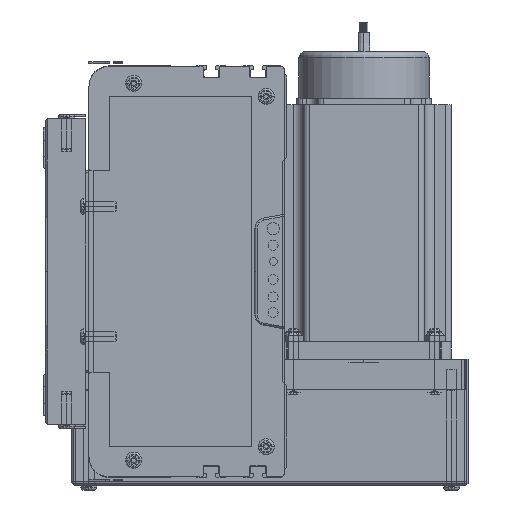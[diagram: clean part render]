
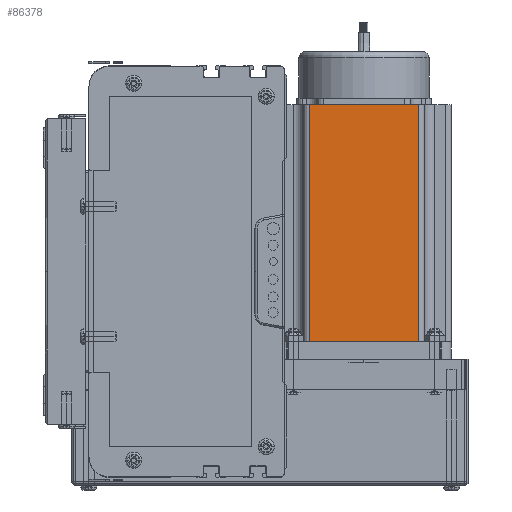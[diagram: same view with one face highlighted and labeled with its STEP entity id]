
A CAD part, left-side view. The second image highlights one B-rep face of the part: STEP entity #86378.
In plain terms, the highlighted planar face has unit normal (-1, 0, 0) as drawn and (0, -1, 0) by its records, which use the part's own axes.
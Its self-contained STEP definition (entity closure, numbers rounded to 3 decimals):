
#575 = CARTESIAN_POINT ( 'NONE',  ( 69.74, 0., 0. ) ) ;
#1881 = CARTESIAN_POINT ( 'NONE',  ( 16.16, 0., 116.5 ) ) ;
#1921 = LINE ( 'NONE', #1985, #1984 ) ;
#1983 = DIRECTION ( 'NONE',  ( 1., 0., 0. ) ) ;
#1984 = VECTOR ( 'NONE', #1983, 1000. ) ;
#1985 = CARTESIAN_POINT ( 'NONE',  ( 0., 0., 0. ) ) ;
#1996 = CARTESIAN_POINT ( 'NONE',  ( 69.74, 0., 116.5 ) ) ;
#86221 = EDGE_CURVE ( 'NONE', #86822, #86827, #162662, .T. ) ;
#86222 = EDGE_CURVE ( 'NONE', #86452, #86827, #162849, .T. ) ;
#86223 = EDGE_LOOP ( 'NONE', ( #86944, #86946, #86457, #86224 ) ) ;
#86224 = ORIENTED_EDGE ( 'NONE', *, *, #86231, .T. ) ;
#86231 = EDGE_CURVE ( 'NONE', #86822, #86371, #162813, .T. ) ;
#86371 = VERTEX_POINT ( 'NONE', #164216 ) ;
#86378 = ADVANCED_FACE ( 'NONE', ( #164289 ), #164308, .F. ) ;
#86452 = VERTEX_POINT ( 'NONE', #575 ) ;
#86457 = ORIENTED_EDGE ( 'NONE', *, *, #86221, .F. ) ;
#86822 = VERTEX_POINT ( 'NONE', #1881 ) ;
#86827 = VERTEX_POINT ( 'NONE', #1996 ) ;
#86829 = EDGE_CURVE ( 'NONE', #86371, #86452, #1921, .T. ) ;
#86944 = ORIENTED_EDGE ( 'NONE', *, *, #86829, .T. ) ;
#86946 = ORIENTED_EDGE ( 'NONE', *, *, #86222, .T. ) ;
#162654 = DIRECTION ( 'NONE',  ( 1., 0., 0. ) ) ;
#162657 = VECTOR ( 'NONE', #162654, 1000. ) ;
#162660 = CARTESIAN_POINT ( 'NONE',  ( 0., 0., 116.5 ) ) ;
#162662 = LINE ( 'NONE', #162660, #162657 ) ;
#162810 = CARTESIAN_POINT ( 'NONE',  ( 16.16, 0., 116.5 ) ) ;
#162813 = LINE ( 'NONE', #162810, #162950 ) ;
#162844 = DIRECTION ( 'NONE',  ( 0., 0., 1. ) ) ;
#162846 = VECTOR ( 'NONE', #162844, 1000. ) ;
#162847 = CARTESIAN_POINT ( 'NONE',  ( 69.74, 0., 116.5 ) ) ;
#162849 = LINE ( 'NONE', #162847, #162846 ) ;
#162948 = DIRECTION ( 'NONE',  ( 0., 0., -1. ) ) ;
#162950 = VECTOR ( 'NONE', #162948, 1000. ) ;
#164216 = CARTESIAN_POINT ( 'NONE',  ( 16.16, 0., 0. ) ) ;
#164258 = DIRECTION ( 'NONE',  ( 0., 0., 1. ) ) ;
#164260 = DIRECTION ( 'NONE',  ( 0., 1., 0. ) ) ;
#164275 = AXIS2_PLACEMENT_3D ( 'NONE', #164282, #164260, #164258 ) ;
#164282 = CARTESIAN_POINT ( 'NONE',  ( 0., 0., 116.5 ) ) ;
#164289 = FACE_OUTER_BOUND ( 'NONE', #86223, .T. ) ;
#164308 = PLANE ( 'NONE',  #164275 ) ;
